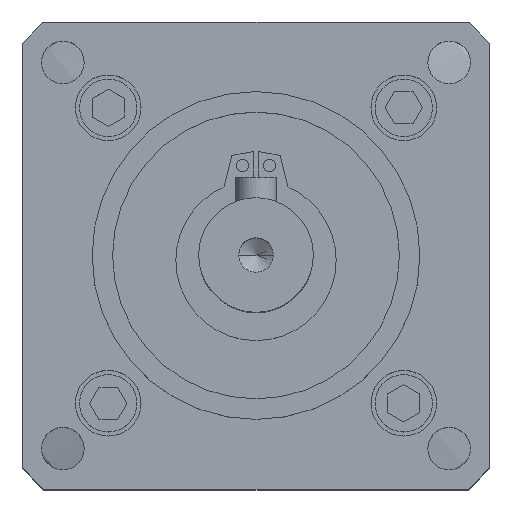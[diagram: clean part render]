
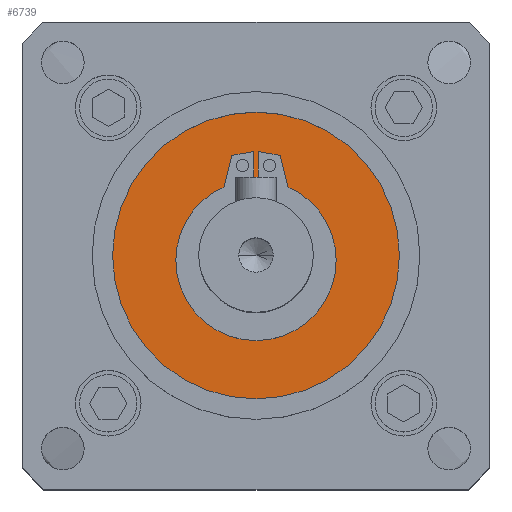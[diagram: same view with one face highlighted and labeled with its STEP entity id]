
A CAD part, top view. The second image highlights one B-rep face of the part: STEP entity #6739.
In plain terms, the highlighted planar face has unit normal (0, 0, 1).
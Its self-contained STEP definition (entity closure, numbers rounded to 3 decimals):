
#3 = DIRECTION ( 'NONE',  ( -1., 0., 0. ) ) ;
#56 = VECTOR ( 'NONE', #2407, 1000. ) ;
#129 = ORIENTED_EDGE ( 'NONE', *, *, #4497, .F. ) ;
#159 = LINE ( 'NONE', #6513, #56 ) ;
#266 = PLANE ( 'NONE',  #2852 ) ;
#380 = LINE ( 'NONE', #6014, #6426 ) ;
#409 = VERTEX_POINT ( 'NONE', #1053 ) ;
#428 = CIRCLE ( 'NONE', #1275, 9.785 ) ;
#650 = CARTESIAN_POINT ( 'NONE',  ( 0., 0., 66. ) ) ;
#684 = CARTESIAN_POINT ( 'NONE',  ( 17.5, 0., 66. ) ) ;
#721 = DIRECTION ( 'NONE',  ( 1., 0., 0. ) ) ;
#762 = EDGE_CURVE ( 'NONE', #6899, #5694, #2167, .T. ) ;
#763 = LINE ( 'NONE', #4911, #2714 ) ;
#804 = DIRECTION ( 'NONE',  ( 0., 1., 0. ) ) ;
#835 = DIRECTION ( 'NONE',  ( -1., 0., 0. ) ) ;
#943 = ORIENTED_EDGE ( 'NONE', *, *, #5805, .F. ) ;
#945 = ORIENTED_EDGE ( 'NONE', *, *, #3122, .F. ) ;
#1015 = AXIS2_PLACEMENT_3D ( 'NONE', #650, #2955, #4578 ) ;
#1053 = CARTESIAN_POINT ( 'NONE',  ( -17.5, 0., 66. ) ) ;
#1069 = CARTESIAN_POINT ( 'NONE',  ( 3.89, 8.378, 66. ) ) ;
#1165 = CIRCLE ( 'NONE', #4774, 9.785 ) ;
#1217 = DIRECTION ( 'NONE',  ( 1., 0., 0. ) ) ;
#1219 = VERTEX_POINT ( 'NONE', #1069 ) ;
#1273 = VERTEX_POINT ( 'NONE', #2303 ) ;
#1275 = AXIS2_PLACEMENT_3D ( 'NONE', #3729, #4220, #6006 ) ;
#1291 = CARTESIAN_POINT ( 'NONE',  ( 0., 0., 66. ) ) ;
#1679 = DIRECTION ( 'NONE',  ( 0., 0., 1. ) ) ;
#1694 = DIRECTION ( 'NONE',  ( -0.985, -0.174, 0. ) ) ;
#1741 = CIRCLE ( 'NONE', #3296, 9.785 ) ;
#1850 = CARTESIAN_POINT ( 'NONE',  ( 0.3, 12.685, 66. ) ) ;
#1852 = FACE_OUTER_BOUND ( 'NONE', #6487, .T. ) ;
#1917 = ORIENTED_EDGE ( 'NONE', *, *, #5030, .F. ) ;
#1961 = VERTEX_POINT ( 'NONE', #3018 ) ;
#1984 = DIRECTION ( 'NONE',  ( -0.985, 0.174, 0. ) ) ;
#1986 = VECTOR ( 'NONE', #1984, 1000. ) ;
#2167 = LINE ( 'NONE', #6244, #6626 ) ;
#2203 = EDGE_LOOP ( 'NONE', ( #3184, #943, #5696, #129, #6462, #3376, #945, #5195, #4502, #1917 ) ) ;
#2303 = CARTESIAN_POINT ( 'NONE',  ( -3.89, 8.378, 66. ) ) ;
#2333 = CARTESIAN_POINT ( 'NONE',  ( -2.959, 12.216, 66. ) ) ;
#2406 = CARTESIAN_POINT ( 'NONE',  ( 0., -0.6, 66. ) ) ;
#2407 = DIRECTION ( 'NONE',  ( -0.236, -0.972, 0. ) ) ;
#2449 = CARTESIAN_POINT ( 'NONE',  ( 2.959, 12.216, 66. ) ) ;
#2473 = VECTOR ( 'NONE', #5460, 1000. ) ;
#2689 = VERTEX_POINT ( 'NONE', #1850 ) ;
#2714 = VECTOR ( 'NONE', #804, 1000. ) ;
#2852 = AXIS2_PLACEMENT_3D ( 'NONE', #1291, #4257, #835 ) ;
#2915 = LINE ( 'NONE', #3442, #3687 ) ;
#2955 = DIRECTION ( 'NONE',  ( 0., 0., 1. ) ) ;
#2962 = EDGE_CURVE ( 'NONE', #409, #6451, #4259, .T. ) ;
#2963 = AXIS2_PLACEMENT_3D ( 'NONE', #3999, #7411, #1217 ) ;
#2984 = CARTESIAN_POINT ( 'NONE',  ( -9.785, -0.6, 66. ) ) ;
#3018 = CARTESIAN_POINT ( 'NONE',  ( -0.3, 12.685, 66. ) ) ;
#3122 = EDGE_CURVE ( 'NONE', #5772, #2689, #4916, .T. ) ;
#3184 = ORIENTED_EDGE ( 'NONE', *, *, #3292, .F. ) ;
#3271 = VERTEX_POINT ( 'NONE', #2984 ) ;
#3292 = EDGE_CURVE ( 'NONE', #1273, #3271, #1741, .T. ) ;
#3296 = AXIS2_PLACEMENT_3D ( 'NONE', #2406, #1679, #6811 ) ;
#3376 = ORIENTED_EDGE ( 'NONE', *, *, #5859, .F. ) ;
#3442 = CARTESIAN_POINT ( 'NONE',  ( 2.959, 12.216, 66. ) ) ;
#3648 = VERTEX_POINT ( 'NONE', #2333 ) ;
#3687 = VECTOR ( 'NONE', #5728, 1000. ) ;
#3729 = CARTESIAN_POINT ( 'NONE',  ( 0., -0.6, 66. ) ) ;
#3999 = CARTESIAN_POINT ( 'NONE',  ( 0., 0., 66. ) ) ;
#4220 = DIRECTION ( 'NONE',  ( 0., 0., 1. ) ) ;
#4257 = DIRECTION ( 'NONE',  ( 0., 0., -1. ) ) ;
#4259 = CIRCLE ( 'NONE', #1015, 17.5 ) ;
#4268 = CARTESIAN_POINT ( 'NONE',  ( -0.3, 9.185, 66. ) ) ;
#4315 = DIRECTION ( 'NONE',  ( 0., 0., 1. ) ) ;
#4352 = CARTESIAN_POINT ( 'NONE',  ( 0.3, 12.685, 66. ) ) ;
#4398 = ORIENTED_EDGE ( 'NONE', *, *, #6317, .T. ) ;
#4497 = EDGE_CURVE ( 'NONE', #5694, #1961, #763, .T. ) ;
#4502 = ORIENTED_EDGE ( 'NONE', *, *, #6465, .F. ) ;
#4578 = DIRECTION ( 'NONE',  ( 1., 0., 0. ) ) ;
#4745 = FACE_BOUND ( 'NONE', #2203, .T. ) ;
#4774 = AXIS2_PLACEMENT_3D ( 'NONE', #5425, #4315, #721 ) ;
#4911 = CARTESIAN_POINT ( 'NONE',  ( -0.3, 9.185, 66. ) ) ;
#4916 = LINE ( 'NONE', #4352, #1986 ) ;
#4993 = CARTESIAN_POINT ( 'NONE',  ( 9.785, -0.6, 66. ) ) ;
#5030 = EDGE_CURVE ( 'NONE', #3271, #6000, #428, .T. ) ;
#5195 = ORIENTED_EDGE ( 'NONE', *, *, #6088, .F. ) ;
#5425 = CARTESIAN_POINT ( 'NONE',  ( 0., -0.6, 66. ) ) ;
#5460 = DIRECTION ( 'NONE',  ( 0., -1., 0. ) ) ;
#5663 = CARTESIAN_POINT ( 'NONE',  ( 0.3, 9.185, 66. ) ) ;
#5694 = VERTEX_POINT ( 'NONE', #4268 ) ;
#5696 = ORIENTED_EDGE ( 'NONE', *, *, #5901, .F. ) ;
#5728 = DIRECTION ( 'NONE',  ( -0.236, 0.972, 0. ) ) ;
#5772 = VERTEX_POINT ( 'NONE', #2449 ) ;
#5805 = EDGE_CURVE ( 'NONE', #3648, #1273, #159, .T. ) ;
#5830 = CIRCLE ( 'NONE', #2963, 17.5 ) ;
#5859 = EDGE_CURVE ( 'NONE', #2689, #6899, #7221, .T. ) ;
#5901 = EDGE_CURVE ( 'NONE', #1961, #3648, #380, .T. ) ;
#6000 = VERTEX_POINT ( 'NONE', #4993 ) ;
#6006 = DIRECTION ( 'NONE',  ( 1., 0., 0. ) ) ;
#6014 = CARTESIAN_POINT ( 'NONE',  ( -0.3, 12.685, 66. ) ) ;
#6088 = EDGE_CURVE ( 'NONE', #1219, #5772, #2915, .T. ) ;
#6244 = CARTESIAN_POINT ( 'NONE',  ( -0.3, 9.185, 66. ) ) ;
#6317 = EDGE_CURVE ( 'NONE', #6451, #409, #5830, .T. ) ;
#6426 = VECTOR ( 'NONE', #1694, 1000. ) ;
#6451 = VERTEX_POINT ( 'NONE', #684 ) ;
#6462 = ORIENTED_EDGE ( 'NONE', *, *, #762, .F. ) ;
#6465 = EDGE_CURVE ( 'NONE', #6000, #1219, #1165, .T. ) ;
#6487 = EDGE_LOOP ( 'NONE', ( #7350, #4398 ) ) ;
#6513 = CARTESIAN_POINT ( 'NONE',  ( -2.959, 12.216, 66. ) ) ;
#6626 = VECTOR ( 'NONE', #3, 1000. ) ;
#6739 = ADVANCED_FACE ( 'NONE', ( #4745, #1852 ), #266, .F. ) ;
#6811 = DIRECTION ( 'NONE',  ( 1., 0., 0. ) ) ;
#6899 = VERTEX_POINT ( 'NONE', #7136 ) ;
#7136 = CARTESIAN_POINT ( 'NONE',  ( 0.3, 9.185, 66. ) ) ;
#7221 = LINE ( 'NONE', #5663, #2473 ) ;
#7350 = ORIENTED_EDGE ( 'NONE', *, *, #2962, .T. ) ;
#7411 = DIRECTION ( 'NONE',  ( 0., 0., 1. ) ) ;
